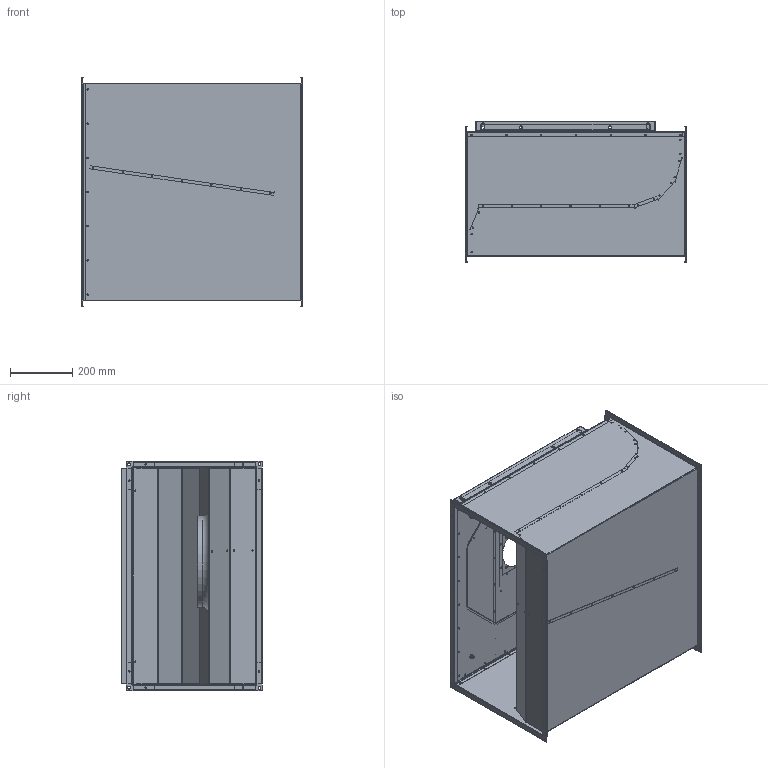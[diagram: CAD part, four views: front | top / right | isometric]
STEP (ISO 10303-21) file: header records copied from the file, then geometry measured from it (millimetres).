
FILE_DESCRIPTION (( 'STEP AP203' ), '1' );
FILE_NAME ('131365-00_KVR07040EC30.STEP', '2015-05-11T07:12:54', ( '' ), ( '' ), 'SwSTEP 2.0', 'SolidWorks 2012', '' );
FILE_SCHEMA (( 'CONFIG_CONTROL_DESIGN' ));
Length unit declared in the file: millimetre
Products named in the file (1): 131365-00_KVR07040EC30
Bounding box: 710 x 453.2 x 738.4 mm (x, y, z)
Surface area: 5652008.4 mm2 (no closed solid volume)
Topology: 0 solids, 75 shells, 891 faces, 3194 edges, 2304 vertices
Faces by surface type: cylinder 592, plane 286, torus 8, cone 4, bspline 1
Entity records: 35946 total; most frequent: CARTESIAN_POINT 6909, DIRECTION 6500, ORIENTED_EDGE 4975, EDGE_CURVE 3194, AXIS2_PLACEMENT_3D 2465, VERTEX_POINT 2304, CIRCLE 1574, LINE 1570
